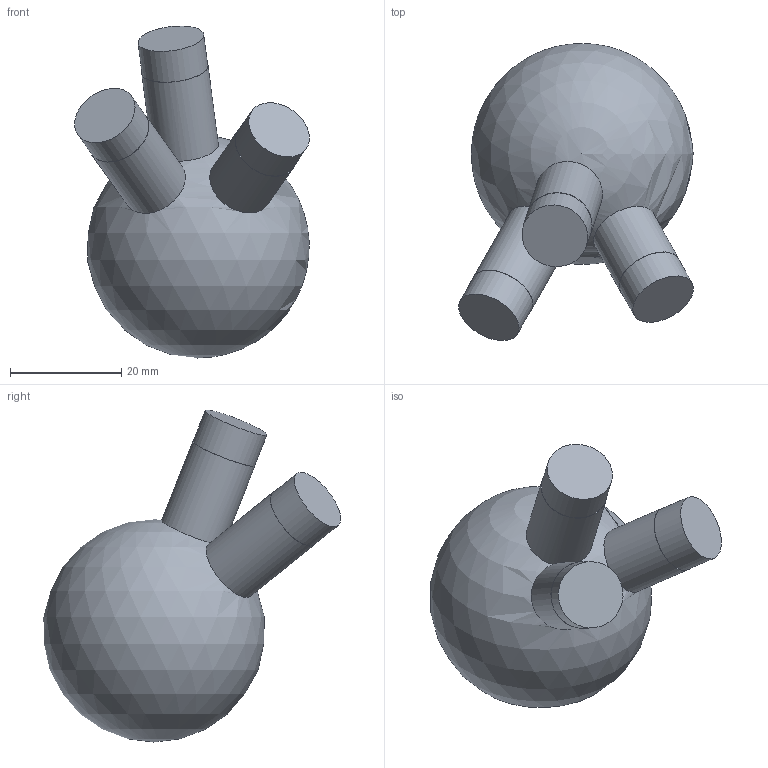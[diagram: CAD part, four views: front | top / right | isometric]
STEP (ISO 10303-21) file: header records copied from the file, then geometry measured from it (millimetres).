
FILE_DESCRIPTION(('Open CASCADE Model'),'2;1');
FILE_NAME('Open CASCADE Shape Model','2026-10-21T12:47:57',('Author'),( 'Open CASCADE'),'Open CASCADE STEP processor 7.9','Open CASCADE 7.9' ,'Unknown');
FILE_SCHEMA(('AUTOMOTIVE_DESIGN { 1 0 10303 214 1 1 1 1 }'));
Length unit declared in the file: millimetre
Products named in the file (1): Open CASCADE STEP translator 7.9 160
Bounding box: 42.2 x 53.41 x 59.65 mm (x, y, z)
Volume: 40216.8 mm3; surface area: 7308.5 mm2
Topology: 1 solids, 1 shells, 13 faces, 25 edges, 17 vertices
Faces by surface type: cylinder 6, plane 6, sphere 1
Full cylindrical faces by diameter (mm): 11.9 x3, 12 x3
Entity records: 1059 total; most frequent: CARTESIAN_POINT 553, DIRECTION 101, ORIENTED_EDGE 44, PCURVE 44, DEFINITIONAL_REPRESENTATION 44, LINE 32, VECTOR 32, AXIS2_PLACEMENT_3D 30
